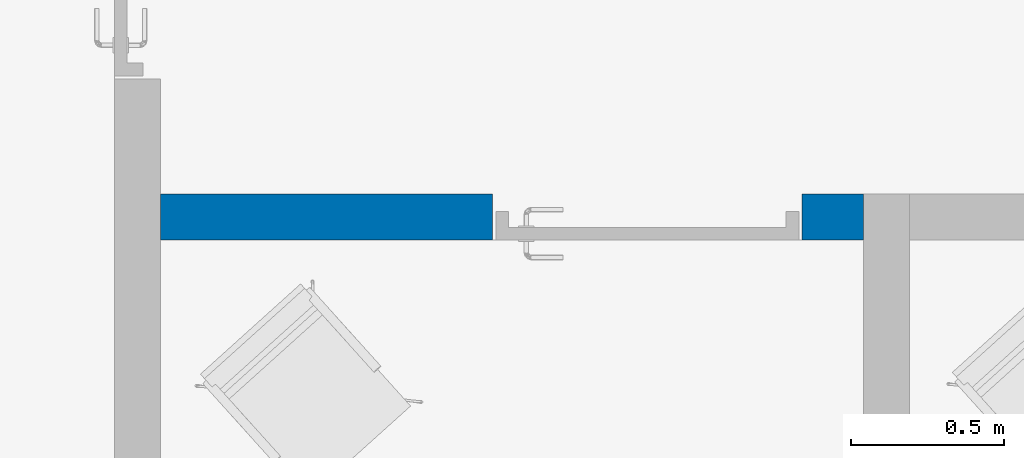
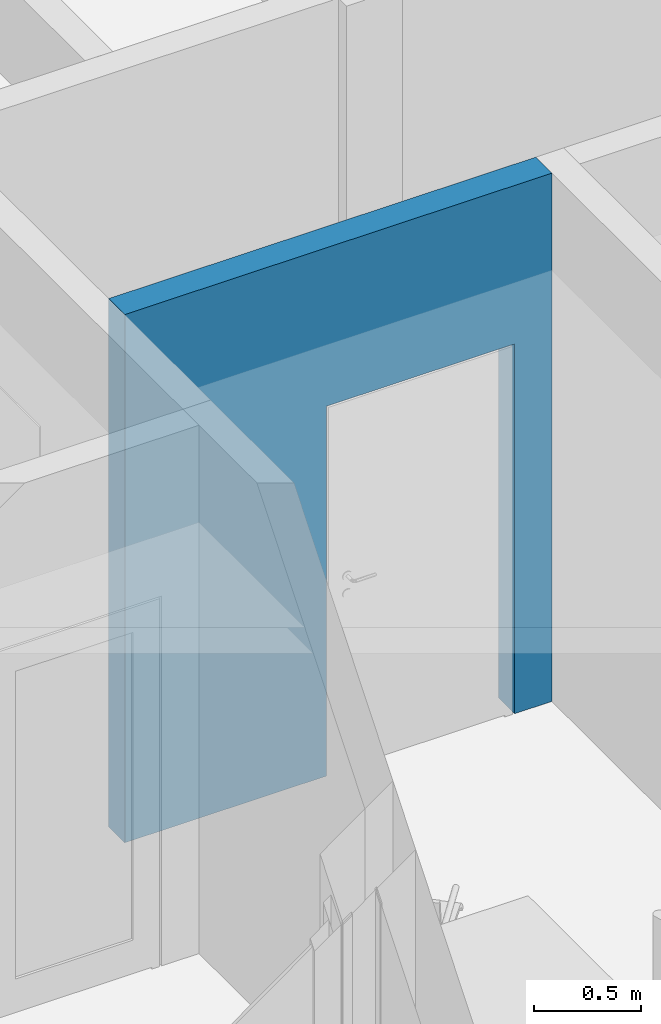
# One storey, part 9 of 58: 1 wall, 1 opening.
"""IFC2X3 building model written with IfcOpenShell, lengths in millimetres."""

from ifc_helpers import new_model, entity, si_unit, converted_unit, derived_unit, direction, frame, frame_2d, origin, place, context, subcontext, project, spatial, rectangle, extrude, material, layer, layer_set, layer_usage, type_object, element, save


model = new_model("IFC2X3")

# Units and contexts
model_context = context("Model", 3, precision=0.01, world=origin(), true_north=direction((0.7716245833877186, 0.6360782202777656)))
body_context = subcontext(model_context, "Body", "Model", "MODEL_VIEW")
ifc_project = project(units=[si_unit("LENGTHUNIT", "METRE", prefix="MILLI"), si_unit("AREAUNIT", "SQUARE_METRE"), converted_unit("PLANEANGLEUNIT", "DEGREE", entity("IfcPlaneAngleMeasure", 0.017453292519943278), si_unit("PLANEANGLEUNIT", "RADIAN"), dimensions=[0, 0, 0, 0, 0, 0, 0]), derived_unit("THERMALTRANSMITTANCEUNIT", [(si_unit("MASSUNIT", "GRAM", prefix="KILO"), 1), (si_unit("THERMODYNAMICTEMPERATUREUNIT", "KELVIN"), -1), (si_unit("TIMEUNIT", "SECOND"), -3)])], contexts=[model_context])

# Site, building, storey
site_placement = place(None, origin())
site = spatial("IfcSite", under=ifc_project, at=site_placement, Name="Default", CompositionType="ELEMENT")
building_placement = place(site_placement, origin())
building = spatial("IfcBuilding", under=site, at=building_placement, CompositionType="ELEMENT")
storey_placement = place(building_placement, frame((0.0, 0.0, 31140.0)))
storey = spatial("IfcBuildingStorey", under=building, at=storey_placement, Name="PLAN U1", CompositionType="ELEMENT", Elevation=31140.000000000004)

# Wall, opening
ifc_material_1 = material(Name="Gips")
ifc_layer_1 = layer(ifc_material_1, 12.5)
ifc_layer_2 = layer(ifc_material_1, 12.5)
ifc_material_2 = material(Name="Stender isolert")
ifc_layer_3 = layer(ifc_material_2, 100.0)
ifc_layer_4 = layer(ifc_material_1, 12.5)
ifc_layer_5 = layer(ifc_material_1, 12.5)
ifc_layer_set = layer_set([ifc_layer_1, ifc_layer_2, ifc_layer_3, ifc_layer_4, ifc_layer_5], Name="Basic Wall:242 IV01 Innervegg 150 mm")
ifc_layer_usage = layer_usage(ifc_layer_set, "AXIS2", "NEGATIVE", 75.0)
wall_type = type_object("IfcWallType", Name="Basic Wall:242 IV01 Innervegg 150 mm", PredefinedType="STANDARD", material=ifc_layer_set)
wall_placement = place(storey_placement, frame((263623.92444647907, 57590.25555007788, 0.0)))
wall = element("IfcWallStandardCase", 1, at=wall_placement, inside=storey, type_object=wall_type, material=ifc_layer_usage, Name="Basic Wall:242 IV01 Innervegg 150 mm", ObjectType="Basic Wall:242 IV01 Innervegg 150 mm", context=body_context, shape_type="SweptSolid", body=[
    extrude(rectangle(XDim=2293.9999999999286, YDim=150.00000000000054, at=frame_2d((1146.9999999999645, -3.979039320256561e-13), x_axis=(1.0, 0.0))), origin(), (0.0, 0.0, 1.0), 2999.9999999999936),
])
opening_placement = place(wall_placement, frame((2094.0, 75.0, 0.0)))
element("IfcOpeningElement", 2, at=opening_placement, cuts=wall, Name="Enfløyet:244 Innvendig AAa 10x21M - Tett:1", ObjectType="Opening", context=body_context, shape_type="SweptSolid", body=[
    extrude(rectangle(XDim=2100.0, YDim=1009.9999999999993, at=frame_2d((1049.9999999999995, 505.0000000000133), x_axis=(1.0, 0.0))), frame((0.0, 0.0, 0.0), z_axis=(0.0, -1.0, 0.0), x_axis=(0.0, 0.0, 1.0)), (0.0, 0.0, 1.0), 150.0),
])

save(model, "model.ifc")
